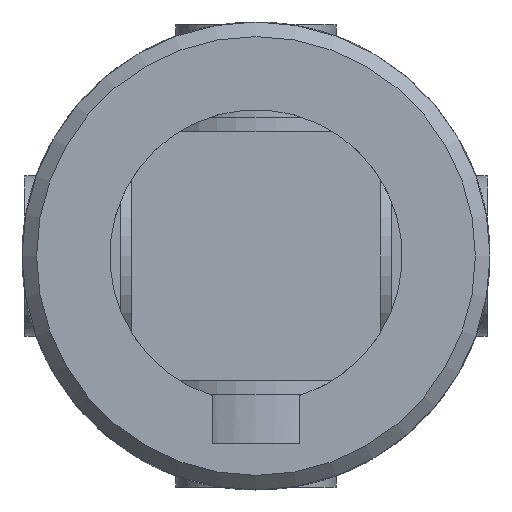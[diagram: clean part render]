
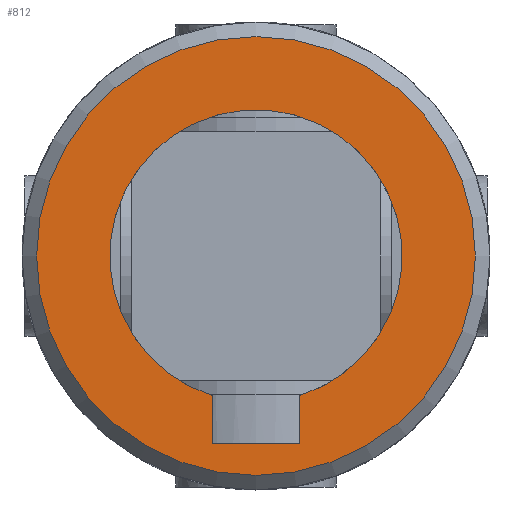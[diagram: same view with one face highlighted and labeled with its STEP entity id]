
A CAD part, front view. The second image highlights one B-rep face of the part: STEP entity #812.
In plain terms, the highlighted planar face has unit normal (0, -1, 0).
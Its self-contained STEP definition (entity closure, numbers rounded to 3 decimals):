
#85=LINE('',#1248,#122);
#87=LINE('',#1254,#124);
#91=LINE('',#1266,#128);
#122=VECTOR('',#1005,6.);
#124=VECTOR('',#1011,3.261);
#128=VECTOR('',#1023,3.261);
#162=PLANE('',#889);
#186=FACE_BOUND('',#282,.T.);
#216=FACE_OUTER_BOUND('',#281,.T.);
#281=EDGE_LOOP('',(#656));
#282=EDGE_LOOP('',(#657,#658,#659,#660));
#326=CIRCLE('',#875,10.);
#333=CIRCLE('',#887,15.);
#373=VERTEX_POINT('',#1245);
#374=VERTEX_POINT('',#1247);
#376=VERTEX_POINT('',#1253);
#380=VERTEX_POINT('',#1264);
#394=VERTEX_POINT('',#1361);
#455=EDGE_CURVE('',#374,#373,#85,.T.);
#458=EDGE_CURVE('',#376,#374,#87,.T.);
#464=EDGE_CURVE('',#373,#380,#91,.T.);
#473=EDGE_CURVE('',#380,#376,#326,.T.);
#485=EDGE_CURVE('',#394,#394,#333,.T.);
#656=ORIENTED_EDGE('',*,*,#485,.F.);
#657=ORIENTED_EDGE('',*,*,#464,.T.);
#658=ORIENTED_EDGE('',*,*,#473,.T.);
#659=ORIENTED_EDGE('',*,*,#458,.T.);
#660=ORIENTED_EDGE('',*,*,#455,.T.);
#812=ADVANCED_FACE('',(#216,#186),#162,.F.);
#875=AXIS2_PLACEMENT_3D('',#1311,#1032,#1033);
#887=AXIS2_PLACEMENT_3D('',#1362,#1057,#1058);
#889=AXIS2_PLACEMENT_3D('',#1574,#1065,#1066);
#1005=DIRECTION('',(-1.,0.,0.));
#1011=DIRECTION('',(0.,0.,-1.));
#1023=DIRECTION('',(0.,0.,1.));
#1032=DIRECTION('center_axis',(0.,1.,0.));
#1033=DIRECTION('ref_axis',(-0.3,0.,0.954));
#1057=DIRECTION('center_axis',(0.,1.,0.));
#1058=DIRECTION('ref_axis',(1.,0.,0.));
#1065=DIRECTION('center_axis',(0.,1.,0.));
#1066=DIRECTION('ref_axis',(0.,0.,1.));
#1245=CARTESIAN_POINT('',(-3.,-51.,-12.8));
#1247=CARTESIAN_POINT('',(3.,-51.,-12.8));
#1248=CARTESIAN_POINT('',(1.5,-51.,-12.8));
#1253=CARTESIAN_POINT('',(3.,-51.,-9.539));
#1254=CARTESIAN_POINT('',(3.,-51.,-4.77));
#1264=CARTESIAN_POINT('',(-3.,-51.,-9.539));
#1266=CARTESIAN_POINT('',(-3.,-51.,-6.4));
#1311=CARTESIAN_POINT('Origin',(0.,-51.,0.));
#1361=CARTESIAN_POINT('',(-15.,-51.,0.));
#1362=CARTESIAN_POINT('Origin',(0.,-51.,0.));
#1574=CARTESIAN_POINT('Origin',(0.,-51.,0.));
